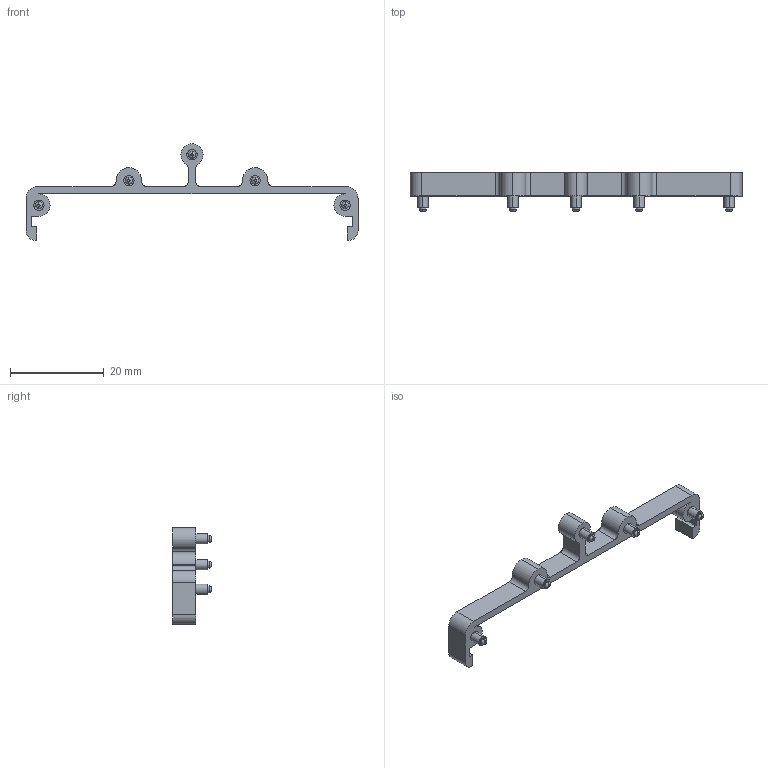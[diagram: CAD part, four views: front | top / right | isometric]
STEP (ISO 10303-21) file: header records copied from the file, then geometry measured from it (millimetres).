
FILE_DESCRIPTION (( 'STEP AP203' ), '1' );
FILE_NAME ('SP7-E05.STEP', '2019-09-12T16:51:16', ( '' ), ( '' ), 'SwSTEP 2.0', 'SolidWorks 2012', '' );
FILE_SCHEMA (( 'CONFIG_CONTROL_DESIGN' ));
Length unit declared in the file: millimetre
Products named in the file (1): SP7-E05
Bounding box: 71 x 8.3 x 20.65 mm (x, y, z)
Volume: 1187.5 mm3; surface area: 1769.3 mm2
Topology: 1 solids, 1 shells, 115 faces, 269 edges, 176 vertices
Faces by surface type: cylinder 60, plane 45, torus 10
Entity records: 3420 total; most frequent: DIRECTION 641, CARTESIAN_POINT 561, ORIENTED_EDGE 538, EDGE_CURVE 269, AXIS2_PLACEMENT_3D 256, VERTEX_POINT 176, CIRCLE 140, EDGE_LOOP 135
